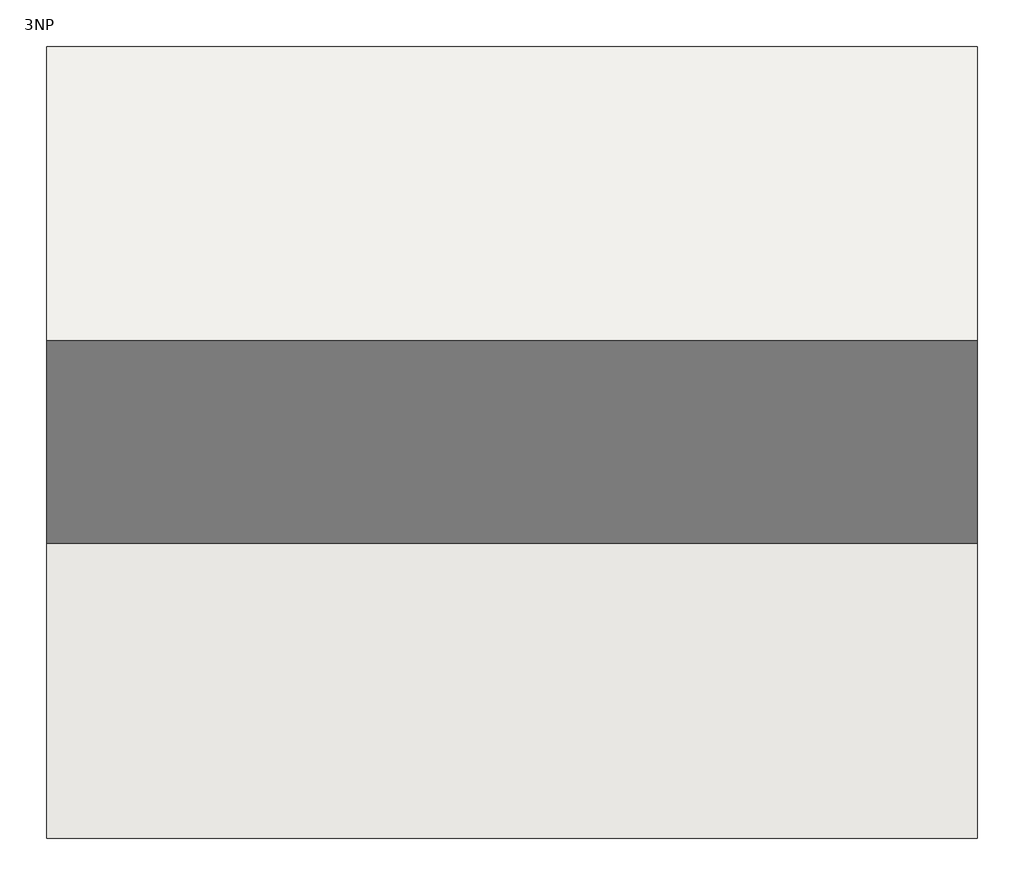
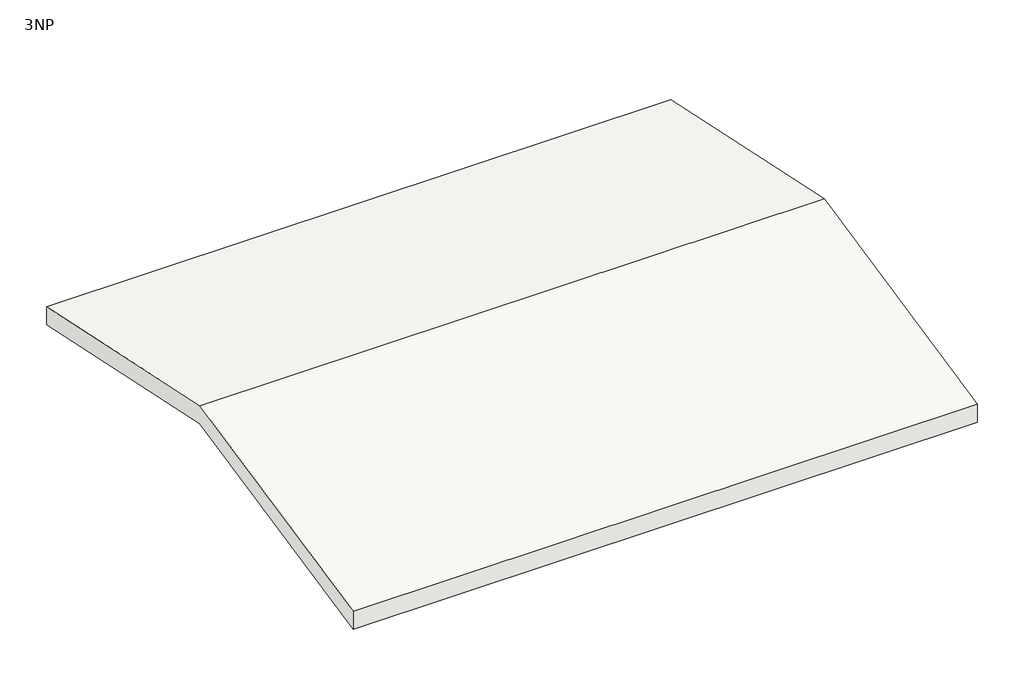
# One storey: 1 roof.
"""IFC4 building model written with IfcOpenShell, lengths in millimetres."""

from ifc_helpers import new_model, si_unit, frame, origin, place, context, project, spatial, polyline, outline, extrude, element, save

model = new_model("IFC4")

# Units and contexts
model_context = context("Model", 3, world=origin())
ifc_project = project(units=[si_unit("LENGTHUNIT", "METRE", prefix="MILLI")], contexts=[model_context])

# Site, building, storey
site = spatial("IfcSite", under=ifc_project)
building = spatial("IfcBuilding", under=site)
storey = spatial("IfcBuildingStorey", under=building, Name="3NP", Elevation=8000.0)

# Roof
placement = place(None, origin())
element("IfcRoof", 1, ObjectType="Generic - 400mm", at=placement, inside=storey, context=model_context, shape_type="SweptSolid", body=[
    extrude(outline(polyline([(8160.2898989, 8302.6579571), (13835.2898989, 9508.9164446), (19510.2898989, 8302.6579571), (19510.2898989, 7893.7217192), (13835.2898989, 9099.9802066), (8160.2898989, 7893.7217192), (8160.2898989, 8302.6579571)])), frame((28776.5997597, 0.0, 0.0), z_axis=(1.0, 0.0, 0.0), x_axis=(0.0, 1.0, 0.0)), (0.0, 0.0, 1.0), 13350.0),
])

save(model, "model.ifc")
